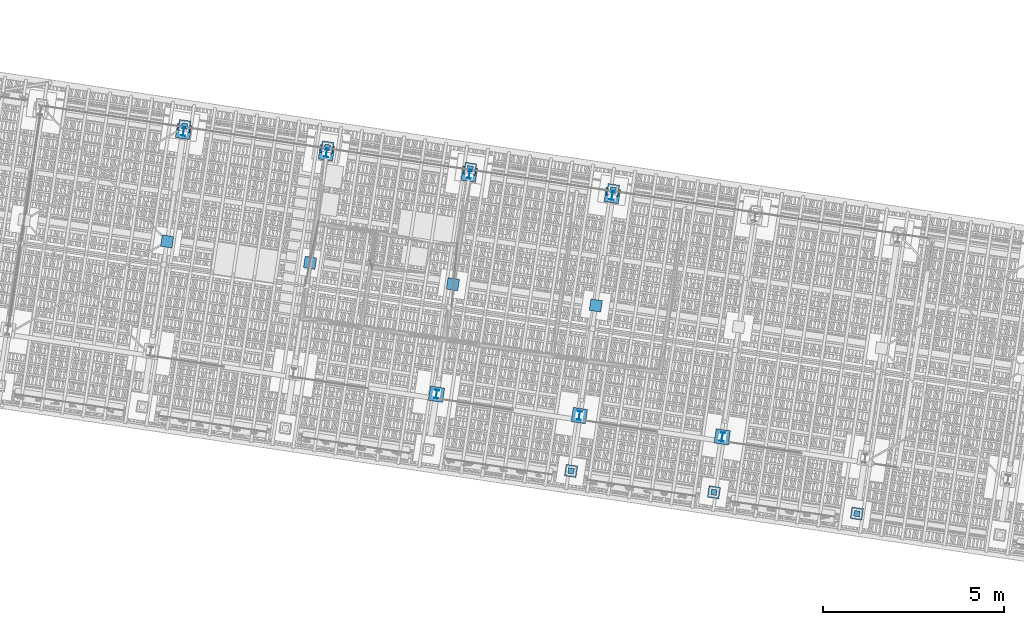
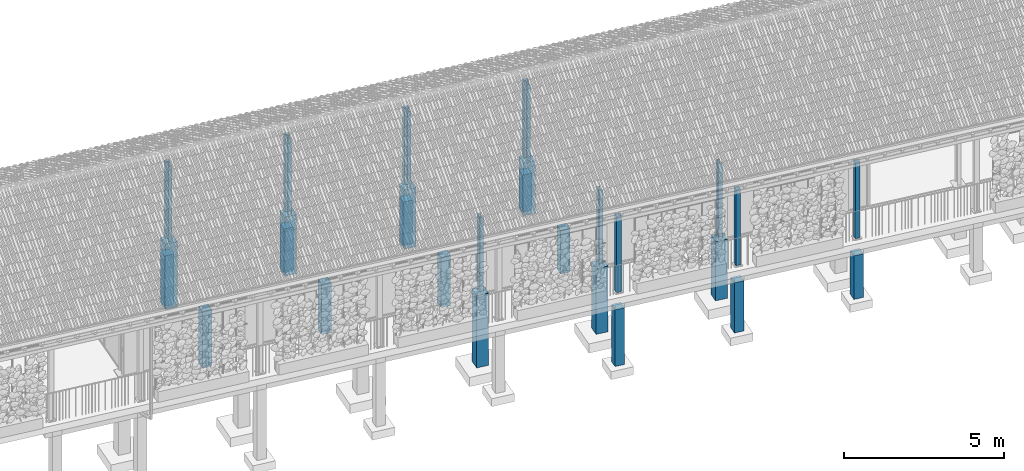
# One storey, part 4 of 131: 32 columns, 2 elements without a shape of their own.
"""IFC4 building model written with IfcOpenShell, lengths in metres."""

from ifc_helpers import new_model, si_unit, direction, frame, origin_with_axes, place, context, subcontext, project, spatial, polyline, rectangle, i_section, outline, extrude, material, material_profile, profile_set, profile_usage, type_object, element, aggregate, save


model = new_model("IFC4")

# Units and contexts
model_context = context("Model", 3, precision=1e-05, world=origin_with_axes(), true_north=direction((0.0, 1.0)))
body_context = subcontext(model_context, "Body", "Model", "MODEL_VIEW")
ifc_project = project(units=[si_unit("VOLUMEUNIT", "CUBIC_METRE"), si_unit("LENGTHUNIT", "METRE"), si_unit("AREAUNIT", "SQUARE_METRE")], contexts=[model_context])

# Site, building, storey
site_placement = place(None, origin_with_axes())
site = spatial("IfcSite", under=ifc_project, at=site_placement, Name="Lares · Rua das Mercês · artigo 4771")
building_placement = place(site_placement, frame((15.0, 9.7, 15.8), z_axis=(0.0, 0.0, 1.0), x_axis=(0.989015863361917, -0.147809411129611, 0.0)))
building = spatial("IfcBuilding", under=site, at=building_placement, Name="Casa Sobreposta")
storey_placement = place(building_placement, origin_with_axes())
storey = spatial("IfcBuildingStorey", under=building, at=storey_placement, Name="00 · Habitação e estacionamento", Elevation=15.8)

# Columns
ifc_material_1 = material(Name="Aço pintado / Stahl lackiert", Category="steel")
ifc_material_profile_1 = material_profile(ifc_material_1, i_section(OverallWidth=0.12, OverallDepth=0.24, WebThickness=0.0062, FlangeThickness=0.0098))
ifc_profile_set_1 = profile_set([ifc_material_profile_1], Name="IPE240")
ifc_profile_usage_1 = profile_usage(ifc_profile_set_1)
column_type_1 = type_object("IfcColumnType", Name="IPE240 / steel", PredefinedType="NOTDEFINED", material=ifc_profile_set_1)
column_1_placement = place(storey_placement, frame((4.0, 6.28, 0.0), z_axis=(0.0, 0.0, 1.0), x_axis=(1.0, 0.0, 0.0)))
element("IfcColumn", 1, at=column_1_placement, inside=storey, type_object=column_type_1, material=ifc_profile_usage_1, Name="Casa térrea · pilar metálico de referência", context=body_context, shape_type="SweptSolid", body=[
    extrude(i_section(OverallWidth=0.12, OverallDepth=0.24, WebThickness=0.0062, FlangeThickness=0.0098), origin_with_axes(), (0.0, 0.0, 1.0), 2.89),
])
ifc_profile_usage_2 = profile_usage(ifc_profile_set_1)
column_2_placement = place(storey_placement, frame((8.0, 6.28, 0.0), z_axis=(0.0, 0.0, 1.0), x_axis=(1.0, 0.0, 0.0)))
element("IfcColumn", 2, at=column_2_placement, inside=storey, type_object=column_type_1, material=ifc_profile_usage_2, Name="Casa térrea · pilar metálico de referência", context=body_context, shape_type="SweptSolid", body=[
    extrude(i_section(OverallWidth=0.12, OverallDepth=0.24, WebThickness=0.0062, FlangeThickness=0.0098), origin_with_axes(), (0.0, 0.0, 1.0), 2.89),
])
ifc_profile_usage_3 = profile_usage(ifc_profile_set_1)
column_3_placement = place(storey_placement, frame((12.0, 0.12, 0.0), z_axis=(0.0, 0.0, 1.0), x_axis=(1.0, 0.0, 0.0)))
element("IfcColumn", 3, at=column_3_placement, inside=storey, type_object=column_type_1, material=ifc_profile_usage_3, Name="Casa térrea · pilar metálico de referência", context=body_context, shape_type="SweptSolid", body=[
    extrude(i_section(OverallWidth=0.12, OverallDepth=0.24, WebThickness=0.0062, FlangeThickness=0.0098), origin_with_axes(), (0.0, 0.0, 1.0), 2.89),
])
ifc_profile_usage_4 = profile_usage(ifc_profile_set_1)
column_4_placement = place(storey_placement, frame((12.0, 6.28, 0.0), z_axis=(0.0, 0.0, 1.0), x_axis=(1.0, 0.0, 0.0)))
element("IfcColumn", 4, at=column_4_placement, inside=storey, type_object=column_type_1, material=ifc_profile_usage_4, Name="Casa térrea · pilar metálico de referência", context=body_context, shape_type="SweptSolid", body=[
    extrude(i_section(OverallWidth=0.12, OverallDepth=0.24, WebThickness=0.0062, FlangeThickness=0.0098), origin_with_axes(), (0.0, 0.0, 1.0), 2.89),
])
ifc_profile_usage_5 = profile_usage(ifc_profile_set_1)
column_5_placement = place(storey_placement, frame((16.0, 0.12, 0.0), z_axis=(0.0, 0.0, 1.0), x_axis=(1.0, 0.0, 0.0)))
element("IfcColumn", 5, at=column_5_placement, inside=storey, type_object=column_type_1, material=ifc_profile_usage_5, Name="Casa térrea · pilar metálico de referência", context=body_context, shape_type="SweptSolid", body=[
    extrude(i_section(OverallWidth=0.12, OverallDepth=0.24, WebThickness=0.0062, FlangeThickness=0.0098), origin_with_axes(), (0.0, 0.0, 1.0), 2.89),
])
ifc_profile_usage_6 = profile_usage(ifc_profile_set_1)
column_6_placement = place(storey_placement, frame((16.0, 6.28, 0.0), z_axis=(0.0, 0.0, 1.0), x_axis=(1.0, 0.0, 0.0)))
element("IfcColumn", 6, at=column_6_placement, inside=storey, type_object=column_type_1, material=ifc_profile_usage_6, Name="Casa térrea · pilar metálico de referência", context=body_context, shape_type="SweptSolid", body=[
    extrude(i_section(OverallWidth=0.12, OverallDepth=0.24, WebThickness=0.0062, FlangeThickness=0.0098), origin_with_axes(), (0.0, 0.0, 1.0), 2.89),
])
ifc_profile_usage_7 = profile_usage(ifc_profile_set_1)
column_7_placement = place(storey_placement, frame((20.0, 0.12, 0.0), z_axis=(0.0, 0.0, 1.0), x_axis=(1.0, 0.0, 0.0)))
element("IfcColumn", 7, at=column_7_placement, inside=storey, type_object=column_type_1, material=ifc_profile_usage_7, Name="Casa térrea · pilar metálico de referência", context=body_context, shape_type="SweptSolid", body=[
    extrude(i_section(OverallWidth=0.12, OverallDepth=0.24, WebThickness=0.0062, FlangeThickness=0.0098), origin_with_axes(), (0.0, 0.0, 1.0), 2.89),
])

# Assembly, columns
assembly_1_placement = place(storey_placement, origin_with_axes())
assembly_1 = element("IfcElementAssembly", 8, at=assembly_1_placement, inside=storey, Name="Varanda coberta · continuação integral da cobertura", ObjectType="COVERED_PODIUM_BALCONY", PredefinedType="USERDEFINED")
ifc_material_2 = material(Name="Madeira / Bauholz", Category="wood")
ifc_material_profile_2 = material_profile(ifc_material_2, rectangle(XDim=0.16, YDim=0.16))
ifc_profile_set_2 = profile_set([ifc_material_profile_2], Name="TIMBER0.160x0.160")
ifc_profile_usage_8 = profile_usage(ifc_profile_set_2)
column_type_2 = type_object("IfcColumnType", Name="TIMBER0.160x0.160 / timber", PredefinedType="NOTDEFINED", material=ifc_profile_set_2)
column_8_placement = place(assembly_1_placement, frame((4.0, 6.43, -0.015), z_axis=(0.0, 0.0, 1.0), x_axis=(1.0, 0.0, 0.0)))
column_8 = element("IfcColumn", 9, at=column_8_placement, type_object=column_type_2, material=ifc_profile_usage_8, Name="Varanda coberta · pilar", context=body_context, shape_type="SweptSolid", body=[
    extrude(rectangle(XDim=0.16, YDim=0.16), origin_with_axes(), (0.0, 0.0, 1.0), 2.905),
])
ifc_profile_usage_9 = profile_usage(ifc_profile_set_2)
column_9_placement = place(assembly_1_placement, frame((8.0, 6.43, -0.015), z_axis=(0.0, 0.0, 1.0), x_axis=(1.0, 0.0, 0.0)))
column_9 = element("IfcColumn", 10, at=column_9_placement, type_object=column_type_2, material=ifc_profile_usage_9, Name="Varanda coberta · pilar", context=body_context, shape_type="SweptSolid", body=[
    extrude(rectangle(XDim=0.16, YDim=0.16), origin_with_axes(), (0.0, 0.0, 1.0), 2.905),
])
ifc_profile_usage_10 = profile_usage(ifc_profile_set_2)
column_10_placement = place(assembly_1_placement, frame((12.0, 6.43, -0.015), z_axis=(0.0, 0.0, 1.0), x_axis=(1.0, 0.0, 0.0)))
column_10 = element("IfcColumn", 11, at=column_10_placement, type_object=column_type_2, material=ifc_profile_usage_10, Name="Varanda coberta · pilar", context=body_context, shape_type="SweptSolid", body=[
    extrude(rectangle(XDim=0.16, YDim=0.16), origin_with_axes(), (0.0, 0.0, 1.0), 2.905),
])
ifc_profile_usage_11 = profile_usage(ifc_profile_set_2)
column_11_placement = place(assembly_1_placement, frame((16.0, -1.43, -0.015), z_axis=(0.0, 0.0, 1.0), x_axis=(1.0, 0.0, 0.0)))
column_11 = element("IfcColumn", 12, at=column_11_placement, type_object=column_type_2, material=ifc_profile_usage_11, Name="Varanda coberta · pilar", context=body_context, shape_type="SweptSolid", body=[
    extrude(rectangle(XDim=0.16, YDim=0.16), origin_with_axes(), (0.0, 0.0, 1.0), 2.905),
])
ifc_profile_usage_12 = profile_usage(ifc_profile_set_2)
column_12_placement = place(assembly_1_placement, frame((16.0, 6.43, -0.015), z_axis=(0.0, 0.0, 1.0), x_axis=(1.0, 0.0, 0.0)))
column_12 = element("IfcColumn", 13, at=column_12_placement, type_object=column_type_2, material=ifc_profile_usage_12, Name="Varanda coberta · pilar", context=body_context, shape_type="SweptSolid", body=[
    extrude(rectangle(XDim=0.16, YDim=0.16), origin_with_axes(), (0.0, 0.0, 1.0), 2.905),
])
ifc_profile_usage_13 = profile_usage(ifc_profile_set_2)
column_13_placement = place(assembly_1_placement, frame((20.0, -1.43, -0.015), z_axis=(0.0, 0.0, 1.0), x_axis=(1.0, 0.0, 0.0)))
column_13 = element("IfcColumn", 14, at=column_13_placement, type_object=column_type_2, material=ifc_profile_usage_13, Name="Varanda coberta · pilar", context=body_context, shape_type="SweptSolid", body=[
    extrude(rectangle(XDim=0.16, YDim=0.16), origin_with_axes(), (0.0, 0.0, 1.0), 2.905),
])
ifc_profile_usage_14 = profile_usage(ifc_profile_set_2)
column_14_placement = place(assembly_1_placement, frame((24.0, -1.43, -0.015), z_axis=(0.0, 0.0, 1.0), x_axis=(1.0, 0.0, 0.0)))
column_14 = element("IfcColumn", 15, at=column_14_placement, type_object=column_type_2, material=ifc_profile_usage_14, Name="Varanda coberta · pilar", context=body_context, shape_type="SweptSolid", body=[
    extrude(rectangle(XDim=0.16, YDim=0.16), origin_with_axes(), (0.0, 0.0, 1.0), 2.905),
])
aggregate(assembly_1, [column_8, column_9, column_10, column_11, column_12, column_13, column_14])

# Columns
ifc_material_3 = material(Name="Betão armado / Stahlbeton", Category="concrete")
column_15_placement = place(storey_placement, frame((0.0, 0.0, -2.5), z_axis=(0.0, 0.0, 1.0), x_axis=(1.0, 0.0, 0.0)))
element("IfcColumn", 16, at=column_15_placement, inside=storey, material=ifc_material_3, Name="Casa térrea · pedestal", context=body_context, shape_type="SweptSolid", body=[
    extrude(outline(polyline([(4.2, 6.08), (4.2, 6.48), (3.8, 6.48), (3.8, 6.08), (4.2, 6.08)])), origin_with_axes(), (0.0, 0.0, 1.0), 2.5),
])
column_16_placement = place(storey_placement, frame((0.0, 0.0, -2.25), z_axis=(0.0, 0.0, 1.0), x_axis=(1.0, 0.0, 0.0)))
element("IfcColumn", 17, at=column_16_placement, inside=storey, material=ifc_material_3, Name="Casa térrea · pedestal", context=body_context, shape_type="SweptSolid", body=[
    extrude(outline(polyline([(8.2, 6.08), (8.2, 6.48), (7.8, 6.48), (7.8, 6.08), (8.2, 6.08)])), origin_with_axes(), (0.0, 0.0, 1.0), 2.25),
])
column_17_placement = place(storey_placement, frame((0.0, 0.0, -2.75), z_axis=(0.0, 0.0, 1.0), x_axis=(1.0, 0.0, 0.0)))
element("IfcColumn", 18, at=column_17_placement, inside=storey, material=ifc_material_3, Name="Casa térrea · pedestal", context=body_context, shape_type="SweptSolid", body=[
    extrude(outline(polyline([(12.2, -0.08), (12.2, 0.32), (11.8, 0.32), (11.8, -0.08), (12.2, -0.08)])), origin_with_axes(), (0.0, 0.0, 1.0), 2.75),
])
column_18_placement = place(storey_placement, frame((0.0, 0.0, -2.25), z_axis=(0.0, 0.0, 1.0), x_axis=(1.0, 0.0, 0.0)))
element("IfcColumn", 19, at=column_18_placement, inside=storey, material=ifc_material_3, Name="Casa térrea · pedestal", context=body_context, shape_type="SweptSolid", body=[
    extrude(outline(polyline([(12.2, 6.08), (12.2, 6.48), (11.8, 6.48), (11.8, 6.08), (12.2, 6.08)])), origin_with_axes(), (0.0, 0.0, 1.0), 2.25),
])
column_19_placement = place(storey_placement, frame((0.0, 0.0, -2.5), z_axis=(0.0, 0.0, 1.0), x_axis=(1.0, 0.0, 0.0)))
element("IfcColumn", 20, at=column_19_placement, inside=storey, material=ifc_material_3, Name="Casa térrea · pedestal", context=body_context, shape_type="SweptSolid", body=[
    extrude(outline(polyline([(16.2, -0.08), (16.2, 0.32), (15.8, 0.32), (15.8, -0.08), (16.2, -0.08)])), origin_with_axes(), (0.0, 0.0, 1.0), 2.5),
])
column_20_placement = place(storey_placement, frame((0.0, 0.0, -2.0), z_axis=(0.0, 0.0, 1.0), x_axis=(1.0, 0.0, 0.0)))
element("IfcColumn", 21, at=column_20_placement, inside=storey, material=ifc_material_3, Name="Casa térrea · pedestal", context=body_context, shape_type="SweptSolid", body=[
    extrude(outline(polyline([(16.2, 6.08), (16.2, 6.48), (15.8, 6.48), (15.8, 6.08), (16.2, 6.08)])), origin_with_axes(), (0.0, 0.0, 1.0), 2.0),
])
column_21_placement = place(storey_placement, frame((0.0, 0.0, -2.25), z_axis=(0.0, 0.0, 1.0), x_axis=(1.0, 0.0, 0.0)))
element("IfcColumn", 22, at=column_21_placement, inside=storey, material=ifc_material_3, Name="Casa térrea · pedestal", context=body_context, shape_type="SweptSolid", body=[
    extrude(outline(polyline([(20.2, -0.08), (20.2, 0.32), (19.8, 0.32), (19.8, -0.08), (20.2, -0.08)])), origin_with_axes(), (0.0, 0.0, 1.0), 2.25),
])

# Assembly, columns
assembly_2_placement = place(storey_placement, origin_with_axes())
assembly_2 = element("IfcElementAssembly", 23, at=assembly_2_placement, inside=storey, Name="Pódio · terraço, casa térrea e cisterna", ObjectType="CISTERN_PODIUM", PredefinedType="USERDEFINED")
column_22_placement = place(assembly_2_placement, frame((0.0, 0.0, -2.75), z_axis=(0.0, 0.0, 1.0), x_axis=(1.0, 0.0, 0.0)))
column_22 = element("IfcColumn", 24, at=column_22_placement, material=ifc_material_3, Name="Pódio suspenso · apoio sobre o terreno", context=body_context, shape_type="SweptSolid", body=[
    extrude(outline(polyline([(4.16, 3.04), (4.16, 3.36), (3.84, 3.36), (3.84, 3.04), (4.16, 3.04)])), origin_with_axes(), (0.0, 0.0, 1.0), 2.16),
])
column_23_placement = place(assembly_2_placement, frame((0.0, 0.0, -2.5), z_axis=(0.0, 0.0, 1.0), x_axis=(1.0, 0.0, 0.0)))
column_23 = element("IfcColumn", 25, at=column_23_placement, material=ifc_material_3, Name="Pódio suspenso · apoio sobre o terreno", context=body_context, shape_type="SweptSolid", body=[
    extrude(outline(polyline([(4.16, 6.27), (4.16, 6.59), (3.84, 6.59), (3.84, 6.27), (4.16, 6.27)])), origin_with_axes(), (0.0, 0.0, 1.0), 1.91),
])
column_24_placement = place(assembly_2_placement, frame((0.0, 0.0, -2.5), z_axis=(0.0, 0.0, 1.0), x_axis=(1.0, 0.0, 0.0)))
column_24 = element("IfcColumn", 26, at=column_24_placement, material=ifc_material_3, Name="Pódio suspenso · apoio sobre o terreno", context=body_context, shape_type="SweptSolid", body=[
    extrude(outline(polyline([(8.16, 3.04), (8.16, 3.36), (7.84, 3.36), (7.84, 3.04), (8.16, 3.04)])), origin_with_axes(), (0.0, 0.0, 1.0), 1.91),
])
column_25_placement = place(assembly_2_placement, frame((0.0, 0.0, -2.25), z_axis=(0.0, 0.0, 1.0), x_axis=(1.0, 0.0, 0.0)))
column_25 = element("IfcColumn", 27, at=column_25_placement, material=ifc_material_3, Name="Pódio suspenso · apoio sobre o terreno", context=body_context, shape_type="SweptSolid", body=[
    extrude(outline(polyline([(8.16, 6.27), (8.16, 6.59), (7.84, 6.59), (7.84, 6.27), (8.16, 6.27)])), origin_with_axes(), (0.0, 0.0, 1.0), 1.66),
])
column_26_placement = place(assembly_2_placement, frame((0.0, 0.0, -2.5), z_axis=(0.0, 0.0, 1.0), x_axis=(1.0, 0.0, 0.0)))
column_26 = element("IfcColumn", 28, at=column_26_placement, material=ifc_material_3, Name="Pódio suspenso · apoio sobre o terreno", context=body_context, shape_type="SweptSolid", body=[
    extrude(outline(polyline([(12.16, 3.04), (12.16, 3.36), (11.84, 3.36), (11.84, 3.04), (12.16, 3.04)])), origin_with_axes(), (0.0, 0.0, 1.0), 1.91),
])
column_27_placement = place(assembly_2_placement, frame((0.0, 0.0, -2.25), z_axis=(0.0, 0.0, 1.0), x_axis=(1.0, 0.0, 0.0)))
column_27 = element("IfcColumn", 29, at=column_27_placement, material=ifc_material_3, Name="Pódio suspenso · apoio sobre o terreno", context=body_context, shape_type="SweptSolid", body=[
    extrude(outline(polyline([(12.16, 6.27), (12.16, 6.59), (11.84, 6.59), (11.84, 6.27), (12.16, 6.27)])), origin_with_axes(), (0.0, 0.0, 1.0), 1.66),
])
column_28_placement = place(assembly_2_placement, frame((0.0, 0.0, -2.75), z_axis=(0.0, 0.0, 1.0), x_axis=(1.0, 0.0, 0.0)))
column_28 = element("IfcColumn", 30, at=column_28_placement, material=ifc_material_3, Name="Pódio suspenso · apoio sobre o terreno", context=body_context, shape_type="SweptSolid", body=[
    extrude(outline(polyline([(16.16, -1.59), (16.16, -1.27), (15.84, -1.27), (15.84, -1.59), (16.16, -1.59)])), origin_with_axes(), (0.0, 0.0, 1.0), 2.16),
])
column_29_placement = place(assembly_2_placement, frame((0.0, 0.0, -2.25), z_axis=(0.0, 0.0, 1.0), x_axis=(1.0, 0.0, 0.0)))
column_29 = element("IfcColumn", 31, at=column_29_placement, material=ifc_material_3, Name="Pódio suspenso · apoio sobre o terreno", context=body_context, shape_type="SweptSolid", body=[
    extrude(outline(polyline([(16.16, 3.04), (16.16, 3.36), (15.84, 3.36), (15.84, 3.04), (16.16, 3.04)])), origin_with_axes(), (0.0, 0.0, 1.0), 1.66),
])
column_30_placement = place(assembly_2_placement, frame((0.0, 0.0, -2.0), z_axis=(0.0, 0.0, 1.0), x_axis=(1.0, 0.0, 0.0)))
column_30 = element("IfcColumn", 32, at=column_30_placement, material=ifc_material_3, Name="Pódio suspenso · apoio sobre o terreno", context=body_context, shape_type="SweptSolid", body=[
    extrude(outline(polyline([(16.16, 6.27), (16.16, 6.59), (15.84, 6.59), (15.84, 6.27), (16.16, 6.27)])), origin_with_axes(), (0.0, 0.0, 1.0), 1.41),
])
column_31_placement = place(assembly_2_placement, frame((0.0, 0.0, -2.5), z_axis=(0.0, 0.0, 1.0), x_axis=(1.0, 0.0, 0.0)))
column_31 = element("IfcColumn", 33, at=column_31_placement, material=ifc_material_3, Name="Pódio suspenso · apoio sobre o terreno", context=body_context, shape_type="SweptSolid", body=[
    extrude(outline(polyline([(20.16, -1.59), (20.16, -1.27), (19.84, -1.27), (19.84, -1.59), (20.16, -1.59)])), origin_with_axes(), (0.0, 0.0, 1.0), 1.91),
])
column_32_placement = place(assembly_2_placement, frame((0.0, 0.0, -2.25), z_axis=(0.0, 0.0, 1.0), x_axis=(1.0, 0.0, 0.0)))
column_32 = element("IfcColumn", 34, at=column_32_placement, material=ifc_material_3, Name="Pódio suspenso · apoio sobre o terreno", context=body_context, shape_type="SweptSolid", body=[
    extrude(outline(polyline([(24.16, -1.59), (24.16, -1.27), (23.84, -1.27), (23.84, -1.59), (24.16, -1.59)])), origin_with_axes(), (0.0, 0.0, 1.0), 1.66),
])
aggregate(assembly_2, [column_22, column_23, column_24, column_25, column_26, column_27, column_28, column_29, column_30, column_31, column_32])

save(model, "model.ifc")
